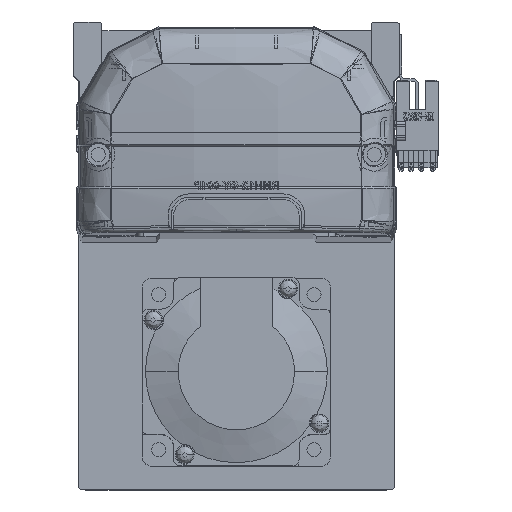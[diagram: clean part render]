
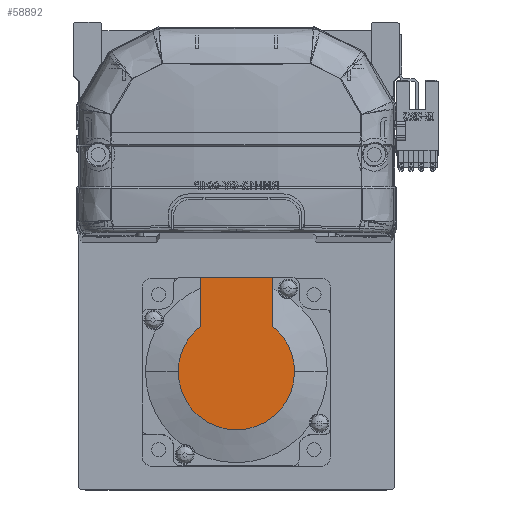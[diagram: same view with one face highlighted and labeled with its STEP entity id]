
A CAD part, top view. The second image highlights one B-rep face of the part: STEP entity #58892.
In plain terms, the highlighted planar face has unit normal (0, 0, 1) as drawn and (-1, 0, 0) by its records, which use the part's own axes.
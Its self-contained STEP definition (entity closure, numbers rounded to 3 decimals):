
#211 = VERTEX_POINT ( 'NONE', #45339 ) ;
#248 = CARTESIAN_POINT ( 'NONE',  ( -79., 30., 27. ) ) ;
#407 = VECTOR ( 'NONE', #8577, 1000. ) ;
#1835 = EDGE_CURVE ( 'NONE', #25624, #18870, #49788, .T. ) ;
#2954 = ORIENTED_EDGE ( 'NONE', *, *, #27704, .F. ) ;
#3021 = CIRCLE ( 'NONE', #13927, 18.538 ) ;
#5359 = DIRECTION ( 'NONE',  ( 0., 0., 1. ) ) ;
#6324 = LINE ( 'NONE', #248, #28508 ) ;
#7008 = DIRECTION ( 'NONE',  ( -1., 0., 0. ) ) ;
#7505 = VERTEX_POINT ( 'NONE', #11873 ) ;
#8577 = DIRECTION ( 'NONE',  ( 0., -1., 0. ) ) ;
#9544 = AXIS2_PLACEMENT_3D ( 'NONE', #28687, #52168, #5359 ) ;
#9743 = DIRECTION ( 'NONE',  ( 0., 0., 1. ) ) ;
#10181 = CARTESIAN_POINT ( 'NONE',  ( -79., 0., 0. ) ) ;
#10886 = EDGE_CURVE ( 'NONE', #18870, #59122, #34819, .T. ) ;
#11873 = CARTESIAN_POINT ( 'NONE',  ( -79., 30., 11.45 ) ) ;
#13927 = AXIS2_PLACEMENT_3D ( 'NONE', #10181, #52467, #24252 ) ;
#15023 = ORIENTED_EDGE ( 'NONE', *, *, #1835, .T. ) ;
#16549 = DIRECTION ( 'NONE',  ( 0., 0., -1. ) ) ;
#16571 = EDGE_LOOP ( 'NONE', ( #15023, #45440, #31268, #53166, #2954, #18369 ) ) ;
#18369 = ORIENTED_EDGE ( 'NONE', *, *, #46319, .F. ) ;
#18870 = VERTEX_POINT ( 'NONE', #26188 ) ;
#19782 = CARTESIAN_POINT ( 'NONE',  ( -79., 14.579, 11.45 ) ) ;
#20237 = CARTESIAN_POINT ( 'NONE',  ( -79., 0., 0. ) ) ;
#21706 = VERTEX_POINT ( 'NONE', #19782 ) ;
#23783 = CARTESIAN_POINT ( 'NONE',  ( -79., -9.269, -11.45 ) ) ;
#24252 = DIRECTION ( 'NONE',  ( 0., 0., -1. ) ) ;
#25624 = VERTEX_POINT ( 'NONE', #39611 ) ;
#26188 = CARTESIAN_POINT ( 'NONE',  ( -79., 14.579, -11.45 ) ) ;
#26925 = DIRECTION ( 'NONE',  ( 0., 0., -1. ) ) ;
#27704 = EDGE_CURVE ( 'NONE', #7505, #21706, #31470, .T. ) ;
#28508 = VECTOR ( 'NONE', #9743, 1000. ) ;
#28687 = CARTESIAN_POINT ( 'NONE',  ( -79., -9.269, 0. ) ) ;
#31268 = ORIENTED_EDGE ( 'NONE', *, *, #34407, .T. ) ;
#31470 = LINE ( 'NONE', #31929, #407 ) ;
#31929 = CARTESIAN_POINT ( 'NONE',  ( -79., 0., 11.45 ) ) ;
#32152 = CARTESIAN_POINT ( 'NONE',  ( -79., 0., -18.538 ) ) ;
#34407 = EDGE_CURVE ( 'NONE', #59122, #211, #34919, .T. ) ;
#34819 = CIRCLE ( 'NONE', #37533, 18.538 ) ;
#34919 = CIRCLE ( 'NONE', #53369, 18.538 ) ;
#35463 = EDGE_CURVE ( 'NONE', #211, #21706, #3021, .T. ) ;
#35467 = DIRECTION ( 'NONE',  ( -1., 0., 0. ) ) ;
#35714 = CARTESIAN_POINT ( 'NONE',  ( -79., 0., 0. ) ) ;
#37533 = AXIS2_PLACEMENT_3D ( 'NONE', #20237, #35467, #26925 ) ;
#39611 = CARTESIAN_POINT ( 'NONE',  ( -79., 30., -11.45 ) ) ;
#42926 = PLANE ( 'NONE',  #9544 ) ;
#45339 = CARTESIAN_POINT ( 'NONE',  ( -79., 0., 18.538 ) ) ;
#45440 = ORIENTED_EDGE ( 'NONE', *, *, #10886, .T. ) ;
#46319 = EDGE_CURVE ( 'NONE', #25624, #7505, #6324, .T. ) ;
#49788 = LINE ( 'NONE', #23783, #59385 ) ;
#52168 = DIRECTION ( 'NONE',  ( -1., 0., 0. ) ) ;
#52411 = DIRECTION ( 'NONE',  ( 0., -1., 0. ) ) ;
#52467 = DIRECTION ( 'NONE',  ( -1., 0., 0. ) ) ;
#53166 = ORIENTED_EDGE ( 'NONE', *, *, #35463, .T. ) ;
#53369 = AXIS2_PLACEMENT_3D ( 'NONE', #35714, #7008, #16549 ) ;
#55416 = FACE_OUTER_BOUND ( 'NONE', #16571, .T. ) ;
#58892 = ADVANCED_FACE ( 'NONE', ( #55416 ), #42926, .T. ) ;
#59122 = VERTEX_POINT ( 'NONE', #32152 ) ;
#59385 = VECTOR ( 'NONE', #52411, 1000. ) ;
